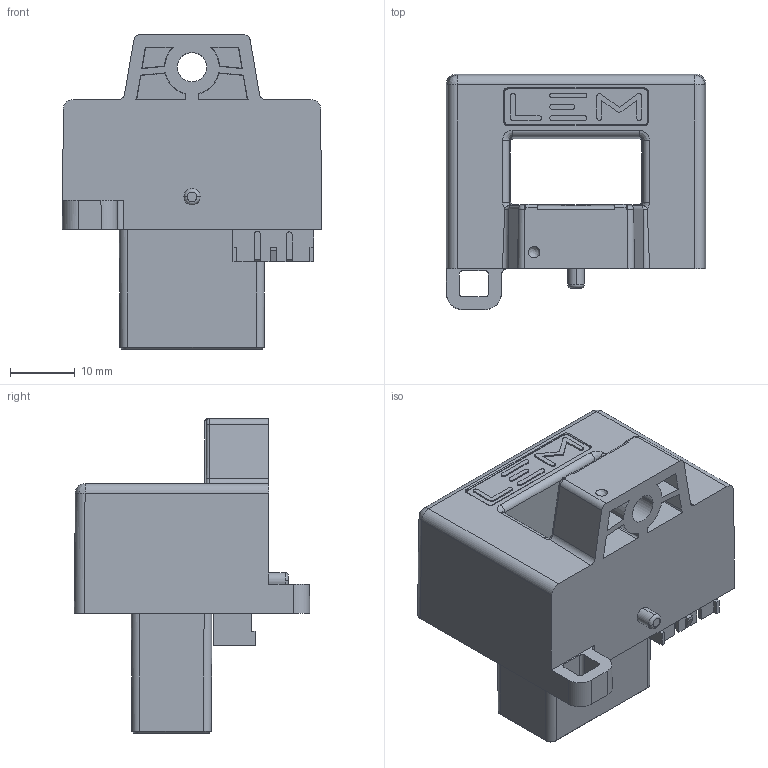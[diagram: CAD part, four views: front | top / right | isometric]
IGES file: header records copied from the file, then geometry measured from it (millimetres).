
Start section: Elysium IGES Interface
Global section: file name: C:\Users\xiw\Desktop\has sw\HAS SP59 CASE3d&2d\BBOX\59 bbox.igs; native system: Creo Elements/Direct Modeling 20.3D  14-Nov-2022; preprocessor: Creo Element/Direct IGES_3D V2.2; author: Unknown; organization: Unknown; date: 20241021.151916; units: millimetre
Bounding box: 40 x 36.3 x 48.5 mm (x, y, z)
Volume: 22066.3 mm3; surface area: 11183.3 mm2
Topology: 1 solids, 20 shells, 672 faces, 1784 edges, 1164 vertices
Faces by surface type: bspline 672
